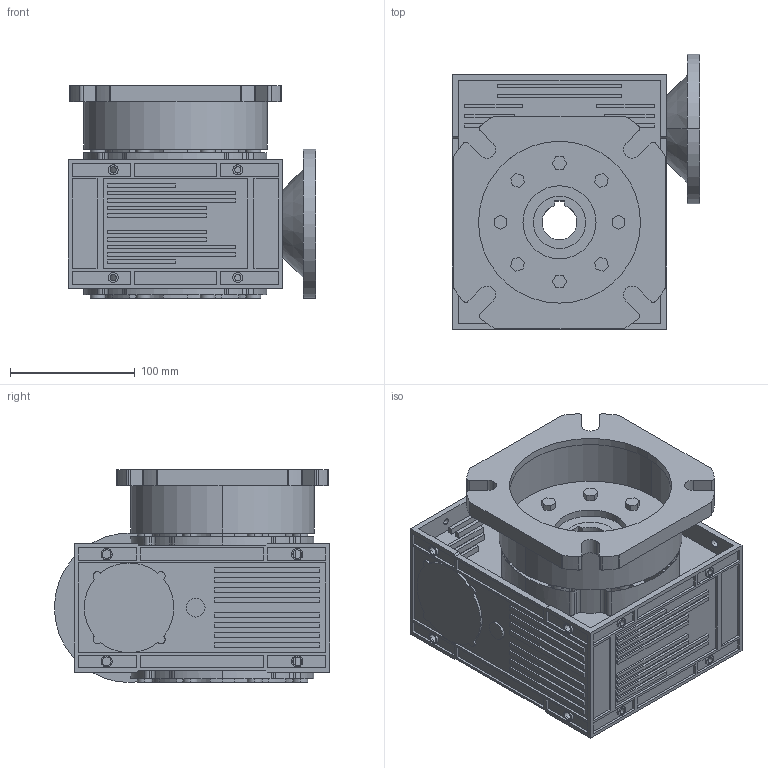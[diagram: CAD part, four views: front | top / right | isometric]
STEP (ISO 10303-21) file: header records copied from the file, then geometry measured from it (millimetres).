
FILE_DESCRIPTION (( 'STEP AP214' ), '1' );
FILE_NAME ('NMRV075-25-80B14(0.75)-F1-B3.step', '2018-09-28T02:30:25', ( 'IT Division' ), ( 'IT' ), 'SwSTEP 2.0', 'SolidWorks 2016', '' );
FILE_SCHEMA (( 'AUTOMOTIVE_DESIGN' ));
Length unit declared in the file: millimetre
Products named in the file (1): NMRV075-25-80B14(0.75)-F1-B3
Bounding box: 198.5 x 221 x 171 mm (x, y, z)
Volume: 3558868 mm3; surface area: 399231.2 mm2
Topology: 2 solids, 2 shells, 1326 faces, 3312 edges, 2203 vertices
Faces by surface type: plane 944, cylinder 373, cone 9
Entity records: 43523 total; most frequent: CARTESIAN_POINT 6914, DIRECTION 6745, ORIENTED_EDGE 6624, EDGE_CURVE 3312, VECTOR 2485, LINE 2485, VERTEX_POINT 2203, AXIS2_PLACEMENT_3D 2130
